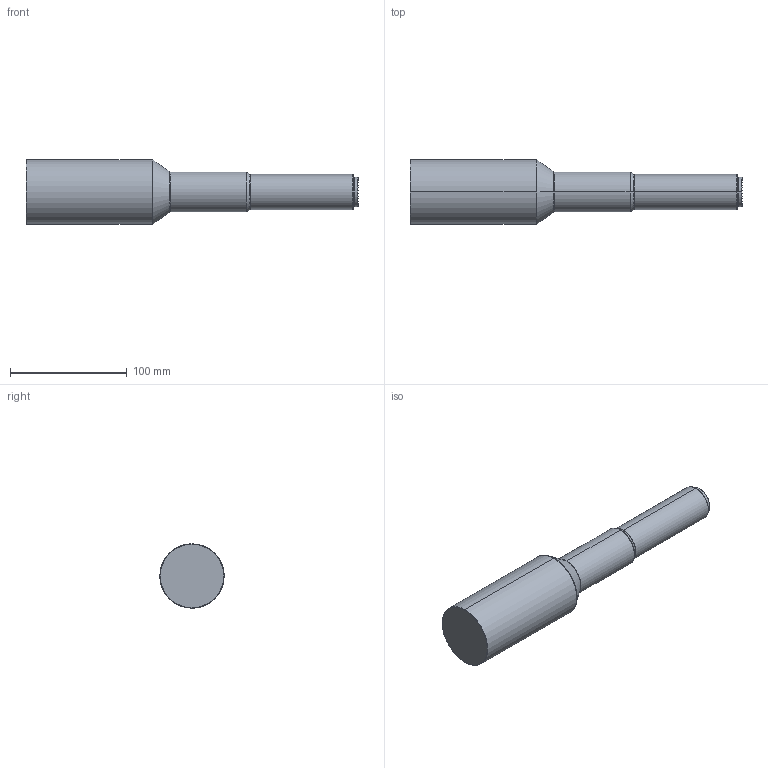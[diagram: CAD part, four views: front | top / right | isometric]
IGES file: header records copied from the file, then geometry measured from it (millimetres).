
Start section: SolidWorks IGES file using analytic representation for surfaces
Global section: file name: C:\Users\16255\Desktop\WWH20-257AT-230V2.IGS; native system: SolidWorks 2017; preprocessor: SolidWorks 2017; author: 16255; date: 220301.140626; units: millimetre
Bounding box: 283.8 x 55 x 55 mm (x, y, z)
Surface area: 40318.3 mm2 (no closed solid volume)
Topology: 0 solids, 0 shells, 32 faces, 368 edges, 368 vertices
Faces by surface type: revolution 20, bspline 12
